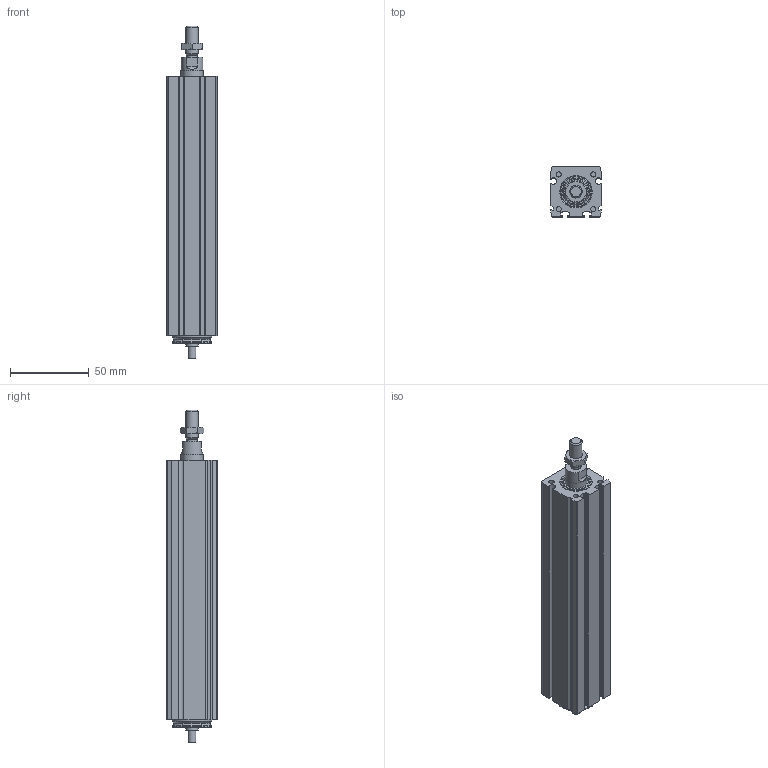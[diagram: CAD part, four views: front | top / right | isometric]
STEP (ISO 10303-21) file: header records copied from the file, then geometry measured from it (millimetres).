
FILE_DESCRIPTION(/* description */ ('STEP AP214'),/* implementation_level */ '2;1');
FILE_NAME(/* name */ 'MCE 32 0802 100 0(0)',/* time_stamp */ '2023-10-05T14:12:46+02:00',/* author */ ('License CC BY-ND 4.0'),/* organization */ ('CADENAS'),/* preprocessor_version */ 'ST-DEVELOPER v19.3',/* originating_system */ 'PARTsolutions',/* authorisation */ ' ');
FILE_SCHEMA (('AUTOMOTIVE_DESIGN {1 0 10303 214 3 1 1}'));
Length unit declared in the file: millimetre
Products named in the file (4): MCE 32 0802 100  0(0); 32_nut; 32(1000)_rod; 32(100)_msc
Assembly tree (3 placements, depth 2):
  MCE 32 0802 100  0(0)
    32_nut
    32(1000)_rod
    32(100)_msc
Bounding box: 32 x 32 x 211 mm (x, y, z)
Volume: 129556.3 mm3; surface area: 53590.2 mm2
Topology: 3 solids, 3 shells, 205 faces, 503 edges, 326 vertices
Faces by surface type: cylinder 89, plane 88, cone 23, torus 5
Full cylindrical faces by diameter (mm): 2.459 x4, 3.242 x4, 5 x1, 6.5 x1, 6.647 x1, 8 x2, 10 x1, 13.8 x1, 14 x2, 17.46 x1, 19.5 x1, 24.5 x2, 25 x2
Entity records: 6017 total; most frequent: CARTESIAN_POINT 1087, DIRECTION 1064, ORIENTED_EDGE 924, EDGE_CURVE 462, AXIS2_PLACEMENT_3D 419, VERTEX_POINT 324, EDGE_LOOP 268, FACE_BOUND 268
